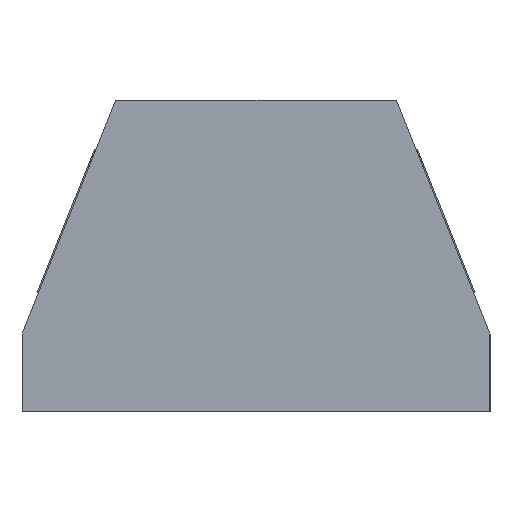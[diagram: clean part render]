
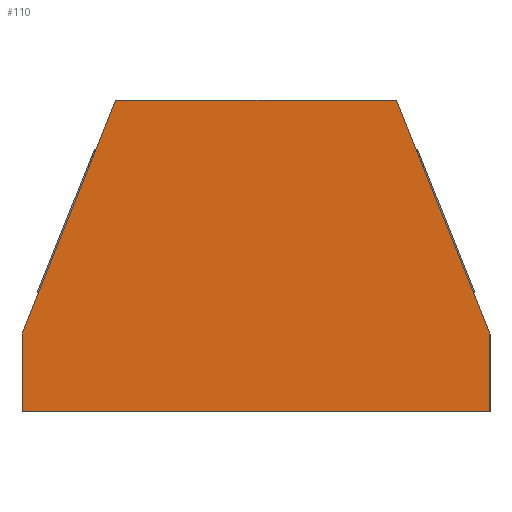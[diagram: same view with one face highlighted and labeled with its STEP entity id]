
A CAD part, left-side view. The second image highlights one B-rep face of the part: STEP entity #110.
In plain terms, the highlighted planar face has unit normal (-1, 0, 0).
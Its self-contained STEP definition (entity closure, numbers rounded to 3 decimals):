
#22 = VERTEX_POINT('',#23);
#23 = CARTESIAN_POINT('',(0.,0.,0.));
#40 = VERTEX_POINT('',#41);
#41 = CARTESIAN_POINT('',(0.,150.,0.));
#47 = EDGE_CURVE('',#22,#40,#48,.T.);
#48 = LINE('',#49,#50);
#49 = CARTESIAN_POINT('',(0.,0.,0.));
#50 = VECTOR('',#51,1.);
#51 = DIRECTION('',(0.,1.,0.));
#84 = VERTEX_POINT('',#85);
#85 = CARTESIAN_POINT('',(0.,0.,25.));
#100 = EDGE_CURVE('',#84,#22,#101,.T.);
#101 = LINE('',#102,#103);
#102 = CARTESIAN_POINT('',(0.,0.,25.));
#103 = VECTOR('',#104,1.);
#104 = DIRECTION('',(0.,0.,-1.));
#110 = ADVANCED_FACE('',(#111),#145,.F.);
#111 = FACE_BOUND('',#112,.F.);
#112 = EDGE_LOOP('',(#113,#114,#122,#130,#138,#144));
#113 = ORIENTED_EDGE('',*,*,#47,.T.);
#114 = ORIENTED_EDGE('',*,*,#115,.T.);
#115 = EDGE_CURVE('',#40,#116,#118,.T.);
#116 = VERTEX_POINT('',#117);
#117 = CARTESIAN_POINT('',(0.,150.,25.));
#118 = LINE('',#119,#120);
#119 = CARTESIAN_POINT('',(0.,150.,0.));
#120 = VECTOR('',#121,1.);
#121 = DIRECTION('',(0.,0.,1.));
#122 = ORIENTED_EDGE('',*,*,#123,.T.);
#123 = EDGE_CURVE('',#116,#124,#126,.T.);
#124 = VERTEX_POINT('',#125);
#125 = CARTESIAN_POINT('',(0.,120.,100.));
#126 = LINE('',#127,#128);
#127 = CARTESIAN_POINT('',(0.,150.,25.));
#128 = VECTOR('',#129,1.);
#129 = DIRECTION('',(0.,-0.371,0.928));
#130 = ORIENTED_EDGE('',*,*,#131,.T.);
#131 = EDGE_CURVE('',#124,#132,#134,.T.);
#132 = VERTEX_POINT('',#133);
#133 = CARTESIAN_POINT('',(0.,30.,100.));
#134 = LINE('',#135,#136);
#135 = CARTESIAN_POINT('',(0.,120.,100.));
#136 = VECTOR('',#137,1.);
#137 = DIRECTION('',(0.,-1.,0.));
#138 = ORIENTED_EDGE('',*,*,#139,.T.);
#139 = EDGE_CURVE('',#132,#84,#140,.T.);
#140 = LINE('',#141,#142);
#141 = CARTESIAN_POINT('',(0.,30.,100.));
#142 = VECTOR('',#143,1.);
#143 = DIRECTION('',(0.,-0.371,-0.928));
#144 = ORIENTED_EDGE('',*,*,#100,.T.);
#145 = PLANE('',#146);
#146 = AXIS2_PLACEMENT_3D('',#147,#148,#149);
#147 = CARTESIAN_POINT('',(0.,75.,43.676));
#148 = DIRECTION('',(1.,0.,0.));
#149 = DIRECTION('',(0.,0.,1.));
